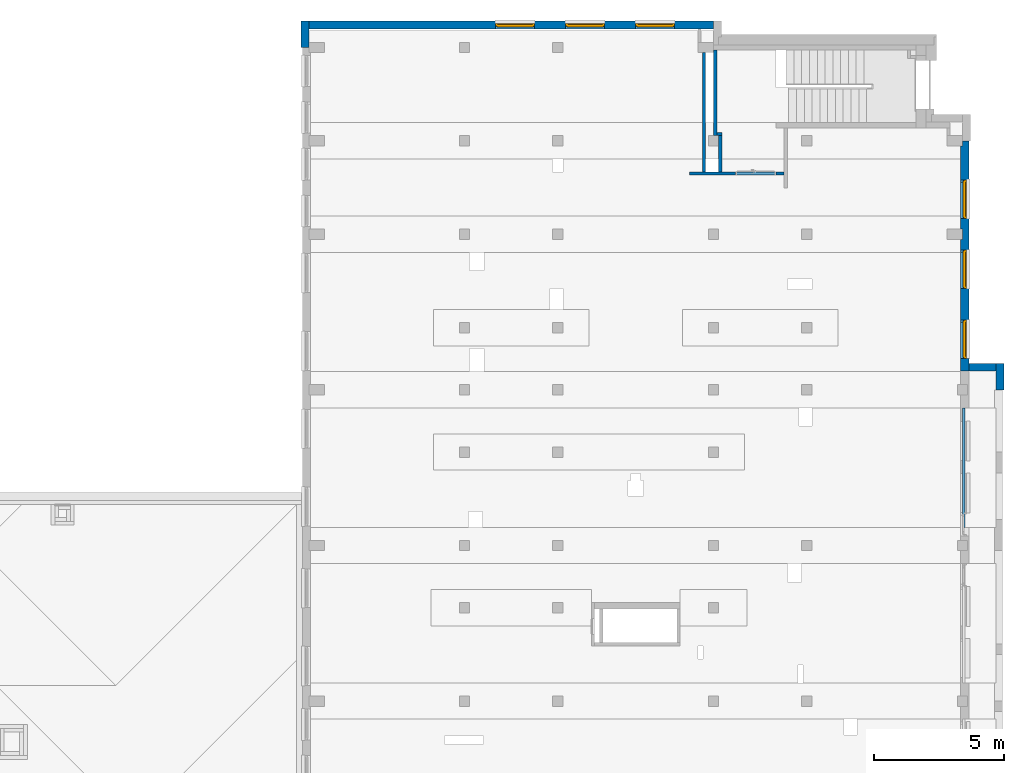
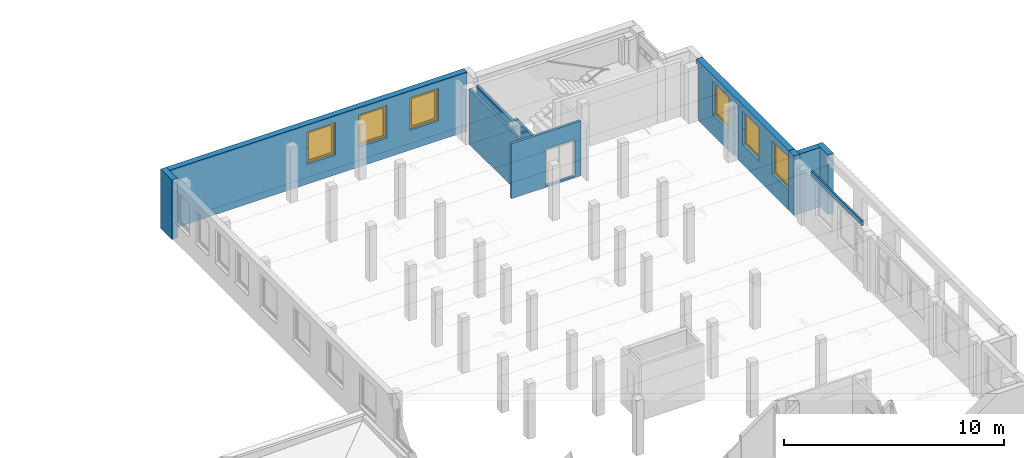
# One storey, part 11 of 27: 12 walls, 6 windows, 7 openings.
"""IFC4 building model written with IfcOpenShell, lengths in metres."""

from ifc_helpers import new_model, entity, si_unit, converted_unit, derived_unit, frame, frame_2d, origin, origin_with_axes, place, context, subcontext, project, spatial, polyline, rectangle, outline, extrude, clip, bounded_halfspace, closed_shell, open_shell, surface_model, source, transform, mapped, material, layer, layer_set, layer_usage, element, fill, save


model = new_model("IFC4")

# Units and contexts
model_context = context("Model", 3, precision=1e-05, world=origin())
body_context = subcontext(model_context, "Body", "Model", "MODEL_VIEW")
ifc_project = project(units=[si_unit("LENGTHUNIT", "METRE"), si_unit("AREAUNIT", "SQUARE_METRE"), si_unit("VOLUMEUNIT", "CUBIC_METRE"), si_unit("MASSUNIT", "GRAM", prefix="KILO"), converted_unit("PLANEANGLEUNIT", "DEGREE", entity("IfcPlaneAngleMeasure", 0.0174532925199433), si_unit("PLANEANGLEUNIT", "RADIAN"), dimensions=[0, 0, 0, 0, 0, 0, 0]), derived_unit("THERMALTRANSMITTANCEUNIT", [(si_unit("POWERUNIT", "WATT"), 1), (si_unit("THERMODYNAMICTEMPERATUREUNIT", "KELVIN"), -1), (si_unit("LENGTHUNIT", "METRE"), -2)]), derived_unit("VOLUMETRICFLOWRATEUNIT", [(si_unit("LENGTHUNIT", "METRE"), 3), (converted_unit("TIMEUNIT", "hour", entity("IfcTimeMeasure", 3600.0), si_unit("TIMEUNIT", "SECOND"), dimensions=[0, 0, 1, 0, 0, 0, 0]), -1), (si_unit("LENGTHUNIT", "METRE"), -1)])], contexts=[model_context])

# Site, building, storey
site_placement = place(None, origin())
site = spatial("IfcSite", under=ifc_project, at=site_placement, Name="3. ASŘ", CompositionType="ELEMENT")
building_placement = place(site_placement, origin())
building = spatial("IfcBuilding", under=site, at=building_placement, Name="Pavilon C", CompositionType="ELEMENT")
storey_placement = place(building_placement, frame((0.0, 0.0, 7.2)))
storey = spatial("IfcBuildingStorey", under=building, at=storey_placement, Name="Půdorys 3.NP", CompositionType="ELEMENT", Elevation=7.2)

# Wall, openings, windows
ifc_material_1 = material(Name="ZELEZOBETONOVÁ KCE")
ifc_layer_1 = layer(ifc_material_1, 0.32)
ifc_layer_set_1 = layer_set([ifc_layer_1])
ifc_layer_usage_1 = layer_usage(ifc_layer_set_1, "AXIS2", "POSITIVE", 0.0)
wall_1_placement = place(storey_placement, frame((50.2, 20.4, -0.1), z_axis=(0.0, 0.0, 1.0), x_axis=(0.0, 1.0, 0.0)))
wall_1 = element("IfcWall", 1, at=wall_1_placement, inside=storey, material=ifc_layer_usage_1, Name="ZELEZOBETONOVÁ KCE", context=body_context, shape_type="Clipping", body=[
    clip(clip(extrude(rectangle(XDim=8.4, YDim=0.32, at=frame_2d((4.2, 0.16), x_axis=(1.0, 0.0))), origin_with_axes(), (0.0, 0.0, 1.0), 3.3), bounded_halfspace(frame((8.3, 0.285, 3.05), z_axis=(0.0, 0.0, 1.0), x_axis=(-1.0, 0.0, 0.0)), True, origin_with_axes(), polyline([(8.4, 0.32), (8.2, 0.32), (8.2, 0.25), (8.4, 0.25), (8.4, 0.32)]))), bounded_halfspace(frame((4.80000000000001, 0.285, 3.05), z_axis=(0.0, 0.0, 1.0), x_axis=(0.0, 1.0, 0.0)), True, origin_with_axes(), polyline([(5.00000000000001, 0.25), (5.00000000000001, 0.32), (4.60000000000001, 0.32), (4.60000000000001, 0.25), (5.00000000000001, 0.25)]))),
])
opening_1_placement = place(wall_1_placement, frame((5.39999999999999, 0.0, 1.1), z_axis=(0.0, 1.0, 0.0), x_axis=(0.0, 0.0, 1.0)))
opening_1 = element("IfcOpeningElement", 2, at=opening_1_placement, cuts=wall_1, Name="Okenní otvor", ObjectType="Opening", context=body_context, shape_type="SweptSolid", body=[
    extrude(outline(polyline([(0.0, 1.5), (1.85, 1.5), (1.85, 0.0), (0.0, 0.0), (0.0, 1.5)])), origin_with_axes(), (0.0, 0.0, 1.0), 0.32),
])
opening_2_placement = place(wall_1_placement, frame((2.69999999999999, 0.0, 1.1), z_axis=(0.0, 1.0, 0.0), x_axis=(0.0, 0.0, 1.0)))
opening_2 = element("IfcOpeningElement", 3, at=opening_2_placement, cuts=wall_1, Name="Okenní otvor", ObjectType="Opening", context=body_context, shape_type="SweptSolid", body=[
    extrude(outline(polyline([(0.0, 1.5), (1.85, 1.5), (1.85, 0.0), (0.0, 0.0), (0.0, 1.5)])), origin_with_axes(), (0.0, 0.0, 1.0), 0.32),
])
opening_3_placement = place(wall_1_placement, frame((0.0, 0.0, 1.1), z_axis=(0.0, 1.0, 0.0), x_axis=(0.0, 0.0, 1.0)))
opening_3 = element("IfcOpeningElement", 4, at=opening_3_placement, cuts=wall_1, Name="Okenní otvor", ObjectType="Opening", context=body_context, shape_type="SweptSolid", body=[
    extrude(outline(polyline([(0.0, 1.5), (1.85, 1.5), (1.85, 0.0), (0.0, 0.0), (0.0, 1.5)])), origin_with_axes(), (0.0, 0.0, 1.0), 0.32),
])
shared_shape_1 = source(origin_with_axes(), body_context, "Body", "SurfaceModel", [
    surface_model("IfcShellBasedSurfaceModel", [(0.0, 0.182, 1.85), (0.0, 0.182, -5.63337527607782e-18), (0.08, 0.182, -5.63337527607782e-18), (0.08, 0.182, 1.85), (0.0, 0.0899999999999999, 5.63337527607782e-18), (0.0, 0.0900000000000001, 1.85), (0.08, 0.0900000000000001, 1.85), (0.08, 0.0899999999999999, 5.63337527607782e-18)], [closed_shell([[[0, 1, 2, 3]], [[4, 5, 6, 7]], [[1, 0, 5, 4]], [[2, 1, 4, 7]], [[3, 2, 7, 6]], [[0, 3, 6, 5]]], orient=[[False], [False], [False], [False], [False], [False]])]),
    surface_model("IfcShellBasedSurfaceModel", [(1.42, 0.182, 1.85), (1.42, 0.182, -5.63337527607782e-18), (1.5, 0.182, -5.63337527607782e-18), (1.5, 0.182, 1.85), (1.42, 0.0899999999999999, 5.63337527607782e-18), (1.42, 0.0900000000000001, 1.85), (1.5, 0.0900000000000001, 1.85), (1.5, 0.0899999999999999, 5.63337527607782e-18)], [closed_shell([[[0, 1, 2, 3]], [[4, 5, 6, 7]], [[1, 0, 5, 4]], [[2, 1, 4, 7]], [[3, 2, 7, 6]], [[0, 3, 6, 5]]], orient=[[False], [False], [False], [False], [False], [False]])]),
    surface_model("IfcShellBasedSurfaceModel", [(0.08, 0.182, 0.08), (0.08, 0.182, -5.63337527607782e-18), (1.42, 0.182, -5.63337527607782e-18), (1.42, 0.182, 0.08), (0.08, 0.0899999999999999, 5.63337527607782e-18), (0.08, 0.0899999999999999, 0.08), (1.42, 0.0899999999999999, 0.08), (1.42, 0.0899999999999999, 5.63337527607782e-18)], [closed_shell([[[0, 1, 2, 3]], [[4, 5, 6, 7]], [[1, 0, 5, 4]], [[2, 1, 4, 7]], [[3, 2, 7, 6]], [[0, 3, 6, 5]]], orient=[[False], [False], [False], [False], [False], [False]])]),
    surface_model("IfcShellBasedSurfaceModel", [(0.08, 0.182, 1.85), (0.08, 0.182, 1.77), (1.42, 0.182, 1.77), (1.42, 0.182, 1.85), (0.08, 0.0900000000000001, 1.77), (0.08, 0.0900000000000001, 1.85), (1.42, 0.0900000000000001, 1.85), (1.42, 0.0900000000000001, 1.77)], [closed_shell([[[0, 1, 2, 3]], [[4, 5, 6, 7]], [[1, 0, 5, 4]], [[2, 1, 4, 7]], [[3, 2, 7, 6]], [[0, 3, 6, 5]]], orient=[[False], [False], [False], [False], [False], [False]])]),
    surface_model("IfcShellBasedSurfaceModel", [(0.05, 0.145, 1.8), (0.05, 0.145, 0.05), (0.13, 0.145, 0.05), (0.13, 0.145, 1.8), (0.05, 0.0599999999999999, 0.05), (0.05, 0.0600000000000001, 1.8), (0.13, 0.0600000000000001, 1.8), (0.13, 0.0599999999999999, 0.05)], [closed_shell([[[0, 1, 2, 3]], [[4, 5, 6, 7]], [[1, 0, 5, 4]], [[2, 1, 4, 7]], [[3, 2, 7, 6]], [[0, 3, 6, 5]]], orient=[[False], [False], [False], [False], [False], [False]])]),
    surface_model("IfcShellBasedSurfaceModel", [(1.37, 0.145, 1.8), (1.37, 0.145, 0.05), (1.45, 0.145, 0.05), (1.45, 0.145, 1.8), (1.37, 0.0599999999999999, 0.05), (1.37, 0.0600000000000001, 1.8), (1.45, 0.0600000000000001, 1.8), (1.45, 0.0599999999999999, 0.05)], [closed_shell([[[0, 1, 2, 3]], [[4, 5, 6, 7]], [[1, 0, 5, 4]], [[2, 1, 4, 7]], [[3, 2, 7, 6]], [[0, 3, 6, 5]]], orient=[[False], [False], [False], [False], [False], [False]])]),
    surface_model("IfcShellBasedSurfaceModel", [(0.13, 0.145, 0.13), (0.13, 0.145, 0.05), (1.37, 0.145, 0.05), (1.37, 0.145, 0.13), (0.13, 0.0599999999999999, 0.05), (0.13, 0.0599999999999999, 0.13), (1.37, 0.0599999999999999, 0.13), (1.37, 0.0599999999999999, 0.05)], [closed_shell([[[0, 1, 2, 3]], [[4, 5, 6, 7]], [[1, 0, 5, 4]], [[2, 1, 4, 7]], [[3, 2, 7, 6]], [[0, 3, 6, 5]]], orient=[[False], [False], [False], [False], [False], [False]])]),
    surface_model("IfcShellBasedSurfaceModel", [(0.13, 0.145, 1.8), (0.13, 0.145, 1.72), (1.37, 0.145, 1.72), (1.37, 0.145, 1.8), (0.13, 0.0600000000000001, 1.72), (0.13, 0.0600000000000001, 1.8), (1.37, 0.0600000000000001, 1.8), (1.37, 0.0600000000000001, 1.72)], [closed_shell([[[0, 1, 2, 3]], [[4, 5, 6, 7]], [[1, 0, 5, 4]], [[2, 1, 4, 7]], [[3, 2, 7, 6]], [[0, 3, 6, 5]]], orient=[[False], [False], [False], [False], [False], [False]])]),
    surface_model("IfcShellBasedSurfaceModel", [(0.0775, 0.06, 0.945), (0.0775, 0.06, 0.905), (0.1025, 0.06, 0.905), (0.1025, 0.06, 0.945), (0.0775, 0.05, 0.905), (0.0775, 0.05, 0.945), (0.1025, 0.05, 0.945), (0.1025, 0.05, 0.905)], [closed_shell([[[0, 1, 2, 3]], [[4, 5, 6, 7]], [[1, 0, 5, 4]], [[2, 1, 4, 7]], [[3, 2, 7, 6]], [[0, 3, 6, 5]]], orient=[[False], [False], [False], [False], [False], [False]])]),
    surface_model("IfcShellBasedSurfaceModel", [(0.1, 0.05, 0.925), (0.0986602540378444, 0.05, 0.93), (0.095, 0.05, 0.933660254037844), (0.09, 0.05, 0.935), (0.085, 0.05, 0.933660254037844), (0.0813397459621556, 0.05, 0.93), (0.08, 0.05, 0.925), (0.0813397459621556, 0.05, 0.92), (0.085, 0.05, 0.916339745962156), (0.09, 0.05, 0.915), (0.095, 0.05, 0.916339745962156), (0.0986602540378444, 0.05, 0.92), (0.1, 0.01, 0.925), (0.0986602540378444, 0.00500000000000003, 0.93), (0.095, 0.00133974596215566, 0.933660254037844), (0.09, 2.8421709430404e-17, 0.935), (0.085, 0.00133974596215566, 0.933660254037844), (0.0813397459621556, 0.00500000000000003, 0.93), (0.08, 0.01, 0.925), (0.0813397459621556, 0.015, 0.92), (0.085, 0.0186602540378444, 0.916339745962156), (0.09, 0.02, 0.915), (0.095, 0.0186602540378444, 0.916339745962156), (0.0986602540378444, 0.015, 0.92), (0.1, 0.01, 0.81), (0.0986602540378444, 0.005, 0.81), (0.095, 0.00133974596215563, 0.81), (0.09, 0.0, 0.81), (0.085, 0.00133974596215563, 0.81), (0.0813397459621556, 0.005, 0.81), (0.08, 0.01, 0.81), (0.0813397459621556, 0.015, 0.81), (0.085, 0.0186602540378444, 0.81), (0.09, 0.02, 0.81), (0.095, 0.0186602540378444, 0.81), (0.0986602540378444, 0.015, 0.81)], [open_shell([[[0, 1, 2, 3, 4, 5, 6, 7, 8, 9, 10, 11]], [[0, 12, 13, 1]], [[1, 13, 14, 2]], [[2, 14, 15, 3]], [[3, 15, 16, 4]], [[4, 16, 17, 5]], [[5, 17, 18, 6]], [[6, 18, 19, 7]], [[7, 19, 20, 8]], [[8, 20, 21, 9]], [[9, 21, 22, 10]], [[10, 22, 23, 11]], [[11, 23, 12, 0]], [[12, 24, 25, 13]], [[13, 25, 26, 14]], [[14, 26, 27, 15]], [[15, 27, 28, 16]], [[16, 28, 29, 17]], [[17, 29, 30, 18]], [[18, 30, 31, 19]], [[19, 31, 32, 20]], [[20, 32, 33, 21]], [[21, 33, 34, 22]], [[22, 34, 35, 23]], [[23, 35, 24, 12]]], orient=[[False], [False], [False], [False], [False], [False], [False], [False], [False], [False], [False], [False], [False], [False], [False], [False], [False], [False], [False], [False], [False], [False], [False], [False], [False]])]),
    surface_model("IfcShellBasedSurfaceModel", [(0.13, 0.1025, 0.13), (1.37, 0.1025, 0.13), (1.37, 0.1025, 1.72), (0.13, 0.1025, 1.72)], [open_shell([[[0, 1, 2, 3]]], orient=[[False]])]),
])
window_1_placement = place(opening_1_placement, frame((0.0, 1.49999999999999, 0.282000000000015), z_axis=(1.0, 0.0, 0.0), x_axis=(0.0, -1.0, 2.44929359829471e-16)))
window_1 = element("IfcWindow", 5, at=window_1_placement, inside=storey, Name="O06", OverallHeight=1.85, OverallWidth=1.5, PartitioningType="USERDEFINED", PredefinedType="WINDOW", context=body_context, shape_type="MappedRepresentation", body=[
    mapped(shared_shape_1, transform((0.0, 0.0, 0.0), x_axis=(1.0, 0.0, 0.0), y_axis=(0.0, 1.0, 0.0), z_axis=(0.0, 0.0, 1.0), scale=1.0)),
])
fill(opening_1, window_1)
window_2_placement = place(opening_2_placement, frame((0.0, 1.49999999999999, 0.282000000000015), z_axis=(1.0, 0.0, 0.0), x_axis=(0.0, -1.0, 2.44929359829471e-16)))
window_2 = element("IfcWindow", 6, at=window_2_placement, inside=storey, Name="O06", OverallHeight=1.85, OverallWidth=1.5, PartitioningType="USERDEFINED", PredefinedType="WINDOW", context=body_context, shape_type="MappedRepresentation", body=[
    mapped(shared_shape_1, transform((0.0, 0.0, 0.0), x_axis=(1.0, 0.0, 0.0), y_axis=(0.0, 1.0, 0.0), z_axis=(0.0, 0.0, 1.0), scale=1.0)),
])
fill(opening_2, window_2)
window_3_placement = place(opening_3_placement, frame((0.0, 1.49999999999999, 0.282000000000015), z_axis=(1.0, 0.0, 0.0), x_axis=(0.0, -1.0, 2.44929359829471e-16)))
window_3 = element("IfcWindow", 7, at=window_3_placement, inside=storey, Name="O06", OverallHeight=1.85, OverallWidth=1.5, PartitioningType="USERDEFINED", PredefinedType="WINDOW", context=body_context, shape_type="MappedRepresentation", body=[
    mapped(shared_shape_1, transform((0.0, 0.0, 0.0), x_axis=(1.0, 0.0, 0.0), y_axis=(0.0, 1.0, 0.0), z_axis=(0.0, 0.0, 1.0), scale=1.0)),
])
fill(opening_3, window_3)

# Wall
ifc_material_2 = material(Name="ZELEZOBETONOVÁ KCE")
ifc_layer_2 = layer(ifc_material_2, 0.3)
ifc_layer_set_2 = layer_set([ifc_layer_2])
ifc_layer_usage_2 = layer_usage(ifc_layer_set_2, "AXIS2", "POSITIVE", 0.0)
wall_2_placement = place(storey_placement, frame((24.75, 32.4, -0.1), z_axis=(0.0, 0.0, 1.0), x_axis=(0.0, 1.0, 0.0)))
element("IfcWall", 8, at=wall_2_placement, inside=storey, material=ifc_layer_usage_2, Name="ZELEZOBETONOVÁ KCE", context=body_context, shape_type="SweptSolid", body=[
    extrude(rectangle(XDim=1.02, YDim=0.3, at=frame_2d((0.51, 0.15), x_axis=(1.0, 0.0))), origin_with_axes(), (0.0, 0.0, 1.0), 3.3),
])

# Wall, openings, windows
ifc_material_3 = material(Name="ZELEZOBETONOVÁ KCE")
ifc_layer_3 = layer(ifc_material_3, 0.3)
ifc_layer_set_3 = layer_set([ifc_layer_3])
ifc_layer_usage_3 = layer_usage(ifc_layer_set_3, "AXIS2", "POSITIVE", 0.0)
wall_3_placement = place(storey_placement, frame((40.35, 33.42, -0.1), z_axis=(0.0, 0.0, 1.0), x_axis=(-1.0, 0.0, 0.0)))
wall_3 = element("IfcWall", 9, at=wall_3_placement, inside=storey, material=ifc_layer_usage_3, Name="ZELEZOBETONOVÁ KCE", context=body_context, shape_type="SweptSolid", body=[
    extrude(rectangle(XDim=15.6, YDim=0.3, at=frame_2d((7.8, 0.15), x_axis=(1.0, 0.0))), origin_with_axes(), (0.0, 0.0, 1.0), 3.3),
])
opening_4_placement = place(wall_3_placement, frame((1.5, 0.0, 1.1), z_axis=(0.0, 1.0, 0.0), x_axis=(0.0, 0.0, 1.0)))
opening_4 = element("IfcOpeningElement", 10, at=opening_4_placement, cuts=wall_3, Name="Okenní otvor", ObjectType="Opening", context=body_context, shape_type="SweptSolid", body=[
    extrude(outline(polyline([(0.0, 1.5), (1.8, 1.5), (1.8, 0.0), (0.0, 0.0), (0.0, 1.5)])), origin_with_axes(), (0.0, 0.0, 1.0), 0.3),
])
opening_5_placement = place(wall_3_placement, frame((4.2, 0.0, 1.1), z_axis=(0.0, 1.0, 0.0), x_axis=(0.0, 0.0, 1.0)))
opening_5 = element("IfcOpeningElement", 11, at=opening_5_placement, cuts=wall_3, Name="Okenní otvor", ObjectType="Opening", context=body_context, shape_type="SweptSolid", body=[
    extrude(outline(polyline([(0.0, 1.5), (1.8, 1.5), (1.8, 0.0), (0.0, 0.0), (0.0, 1.5)])), origin_with_axes(), (0.0, 0.0, 1.0), 0.3),
])
opening_6_placement = place(wall_3_placement, frame((6.9, 0.0, 1.1), z_axis=(0.0, 1.0, 0.0), x_axis=(0.0, 0.0, 1.0)))
opening_6 = element("IfcOpeningElement", 12, at=opening_6_placement, cuts=wall_3, Name="Okenní otvor", ObjectType="Opening", context=body_context, shape_type="SweptSolid", body=[
    extrude(outline(polyline([(0.0, 1.5), (1.8, 1.5), (1.8, 0.0), (0.0, 0.0), (0.0, 1.5)])), origin_with_axes(), (0.0, 0.0, 1.0), 0.3),
])
shared_shape_2 = source(origin_with_axes(), body_context, "Body", "SurfaceModel", [
    surface_model("IfcShellBasedSurfaceModel", [(0.0, 0.182, 1.8), (0.0, 0.182, -5.63337527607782e-18), (0.08, 0.182, -5.63337527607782e-18), (0.08, 0.182, 1.8), (0.0, 0.0899999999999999, 5.63337527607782e-18), (0.0, 0.0900000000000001, 1.8), (0.08, 0.0900000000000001, 1.8), (0.08, 0.0899999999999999, 5.63337527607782e-18)], [closed_shell([[[0, 1, 2, 3]], [[4, 5, 6, 7]], [[1, 0, 5, 4]], [[2, 1, 4, 7]], [[3, 2, 7, 6]], [[0, 3, 6, 5]]], orient=[[False], [False], [False], [False], [False], [False]])]),
    surface_model("IfcShellBasedSurfaceModel", [(1.42, 0.182, 1.8), (1.42, 0.182, -5.63337527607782e-18), (1.5, 0.182, -5.63337527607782e-18), (1.5, 0.182, 1.8), (1.42, 0.0899999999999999, 5.63337527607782e-18), (1.42, 0.0900000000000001, 1.8), (1.5, 0.0900000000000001, 1.8), (1.5, 0.0899999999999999, 5.63337527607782e-18)], [closed_shell([[[0, 1, 2, 3]], [[4, 5, 6, 7]], [[1, 0, 5, 4]], [[2, 1, 4, 7]], [[3, 2, 7, 6]], [[0, 3, 6, 5]]], orient=[[False], [False], [False], [False], [False], [False]])]),
    surface_model("IfcShellBasedSurfaceModel", [(0.08, 0.182, 0.08), (0.08, 0.182, -5.63337527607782e-18), (1.42, 0.182, -5.63337527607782e-18), (1.42, 0.182, 0.08), (0.08, 0.0899999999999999, 5.63337527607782e-18), (0.08, 0.0899999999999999, 0.08), (1.42, 0.0899999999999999, 0.08), (1.42, 0.0899999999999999, 5.63337527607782e-18)], [closed_shell([[[0, 1, 2, 3]], [[4, 5, 6, 7]], [[1, 0, 5, 4]], [[2, 1, 4, 7]], [[3, 2, 7, 6]], [[0, 3, 6, 5]]], orient=[[False], [False], [False], [False], [False], [False]])]),
    surface_model("IfcShellBasedSurfaceModel", [(0.08, 0.182, 1.8), (0.08, 0.182, 1.72), (1.42, 0.182, 1.72), (1.42, 0.182, 1.8), (0.08, 0.0900000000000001, 1.72), (0.08, 0.0900000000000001, 1.8), (1.42, 0.0900000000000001, 1.8), (1.42, 0.0900000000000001, 1.72)], [closed_shell([[[0, 1, 2, 3]], [[4, 5, 6, 7]], [[1, 0, 5, 4]], [[2, 1, 4, 7]], [[3, 2, 7, 6]], [[0, 3, 6, 5]]], orient=[[False], [False], [False], [False], [False], [False]])]),
    surface_model("IfcShellBasedSurfaceModel", [(0.05, 0.145, 1.75), (0.05, 0.145, 0.05), (0.13, 0.145, 0.05), (0.13, 0.145, 1.75), (0.05, 0.0599999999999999, 0.05), (0.05, 0.0600000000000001, 1.75), (0.13, 0.0600000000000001, 1.75), (0.13, 0.0599999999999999, 0.05)], [closed_shell([[[0, 1, 2, 3]], [[4, 5, 6, 7]], [[1, 0, 5, 4]], [[2, 1, 4, 7]], [[3, 2, 7, 6]], [[0, 3, 6, 5]]], orient=[[False], [False], [False], [False], [False], [False]])]),
    surface_model("IfcShellBasedSurfaceModel", [(1.37, 0.145, 1.75), (1.37, 0.145, 0.05), (1.45, 0.145, 0.05), (1.45, 0.145, 1.75), (1.37, 0.0599999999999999, 0.05), (1.37, 0.0600000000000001, 1.75), (1.45, 0.0600000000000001, 1.75), (1.45, 0.0599999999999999, 0.05)], [closed_shell([[[0, 1, 2, 3]], [[4, 5, 6, 7]], [[1, 0, 5, 4]], [[2, 1, 4, 7]], [[3, 2, 7, 6]], [[0, 3, 6, 5]]], orient=[[False], [False], [False], [False], [False], [False]])]),
    surface_model("IfcShellBasedSurfaceModel", [(0.13, 0.145, 0.13), (0.13, 0.145, 0.05), (1.37, 0.145, 0.05), (1.37, 0.145, 0.13), (0.13, 0.0599999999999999, 0.05), (0.13, 0.0599999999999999, 0.13), (1.37, 0.0599999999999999, 0.13), (1.37, 0.0599999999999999, 0.05)], [closed_shell([[[0, 1, 2, 3]], [[4, 5, 6, 7]], [[1, 0, 5, 4]], [[2, 1, 4, 7]], [[3, 2, 7, 6]], [[0, 3, 6, 5]]], orient=[[False], [False], [False], [False], [False], [False]])]),
    surface_model("IfcShellBasedSurfaceModel", [(0.13, 0.145, 1.75), (0.13, 0.145, 1.67), (1.37, 0.145, 1.67), (1.37, 0.145, 1.75), (0.13, 0.0600000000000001, 1.67), (0.13, 0.0600000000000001, 1.75), (1.37, 0.0600000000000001, 1.75), (1.37, 0.0600000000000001, 1.67)], [closed_shell([[[0, 1, 2, 3]], [[4, 5, 6, 7]], [[1, 0, 5, 4]], [[2, 1, 4, 7]], [[3, 2, 7, 6]], [[0, 3, 6, 5]]], orient=[[False], [False], [False], [False], [False], [False]])]),
    surface_model("IfcShellBasedSurfaceModel", [(0.0775, 0.06, 0.92), (0.0775, 0.06, 0.88), (0.1025, 0.06, 0.88), (0.1025, 0.06, 0.92), (0.0775, 0.05, 0.88), (0.0775, 0.05, 0.92), (0.1025, 0.05, 0.92), (0.1025, 0.05, 0.88)], [closed_shell([[[0, 1, 2, 3]], [[4, 5, 6, 7]], [[1, 0, 5, 4]], [[2, 1, 4, 7]], [[3, 2, 7, 6]], [[0, 3, 6, 5]]], orient=[[False], [False], [False], [False], [False], [False]])]),
    surface_model("IfcShellBasedSurfaceModel", [(0.1, 0.05, 0.9), (0.0986602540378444, 0.05, 0.905), (0.095, 0.05, 0.908660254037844), (0.09, 0.05, 0.91), (0.085, 0.05, 0.908660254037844), (0.0813397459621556, 0.05, 0.905), (0.08, 0.05, 0.9), (0.0813397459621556, 0.05, 0.895), (0.085, 0.05, 0.891339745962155), (0.09, 0.05, 0.89), (0.095, 0.05, 0.891339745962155), (0.0986602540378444, 0.05, 0.895), (0.1, 0.01, 0.9), (0.0986602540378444, 0.00500000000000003, 0.905), (0.095, 0.00133974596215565, 0.908660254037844), (0.09, 2.8421709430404e-17, 0.91), (0.085, 0.00133974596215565, 0.908660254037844), (0.0813397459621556, 0.00500000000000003, 0.905), (0.08, 0.01, 0.9), (0.0813397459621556, 0.015, 0.895), (0.085, 0.0186602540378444, 0.891339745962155), (0.09, 0.02, 0.89), (0.095, 0.0186602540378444, 0.891339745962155), (0.0986602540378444, 0.015, 0.895), (0.1, 0.01, 0.785), (0.0986602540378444, 0.005, 0.785), (0.095, 0.00133974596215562, 0.785), (0.09, 0.0, 0.785), (0.085, 0.00133974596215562, 0.785), (0.0813397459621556, 0.005, 0.785), (0.08, 0.01, 0.785), (0.0813397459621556, 0.015, 0.785), (0.085, 0.0186602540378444, 0.785), (0.09, 0.02, 0.785), (0.095, 0.0186602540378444, 0.785), (0.0986602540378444, 0.015, 0.785)], [open_shell([[[0, 1, 2, 3, 4, 5, 6, 7, 8, 9, 10, 11]], [[0, 12, 13, 1]], [[1, 13, 14, 2]], [[2, 14, 15, 3]], [[3, 15, 16, 4]], [[4, 16, 17, 5]], [[5, 17, 18, 6]], [[6, 18, 19, 7]], [[7, 19, 20, 8]], [[8, 20, 21, 9]], [[9, 21, 22, 10]], [[10, 22, 23, 11]], [[11, 23, 12, 0]], [[12, 24, 25, 13]], [[13, 25, 26, 14]], [[14, 26, 27, 15]], [[15, 27, 28, 16]], [[16, 28, 29, 17]], [[17, 29, 30, 18]], [[18, 30, 31, 19]], [[19, 31, 32, 20]], [[20, 32, 33, 21]], [[21, 33, 34, 22]], [[22, 34, 35, 23]], [[23, 35, 24, 12]]], orient=[[False], [False], [False], [False], [False], [False], [False], [False], [False], [False], [False], [False], [False], [False], [False], [False], [False], [False], [False], [False], [False], [False], [False], [False], [False]])]),
    surface_model("IfcShellBasedSurfaceModel", [(0.13, 0.1025, 0.13), (1.37, 0.1025, 0.13), (1.37, 0.1025, 1.67), (0.13, 0.1025, 1.67)], [open_shell([[[0, 1, 2, 3]]], orient=[[False]])]),
])
window_4_placement = place(opening_4_placement, frame((0.0, 1.5, 0.282), z_axis=(1.0, 0.0, 0.0), x_axis=(0.0, -1.0, 2.44929359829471e-16)))
window_4 = element("IfcWindow", 13, at=window_4_placement, inside=storey, Name="O06", OverallHeight=1.8, OverallWidth=1.5, PartitioningType="USERDEFINED", PredefinedType="WINDOW", context=body_context, shape_type="MappedRepresentation", body=[
    mapped(shared_shape_2, transform((0.0, 0.0, 0.0), x_axis=(1.0, 0.0, 0.0), y_axis=(0.0, 1.0, 0.0), z_axis=(0.0, 0.0, 1.0), scale=1.0)),
])
fill(opening_4, window_4)
window_5_placement = place(opening_5_placement, frame((0.0, 1.5, 0.282), z_axis=(1.0, 0.0, 0.0), x_axis=(0.0, -1.0, 2.44929359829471e-16)))
window_5 = element("IfcWindow", 14, at=window_5_placement, inside=storey, Name="O06", OverallHeight=1.8, OverallWidth=1.5, PartitioningType="USERDEFINED", PredefinedType="WINDOW", context=body_context, shape_type="MappedRepresentation", body=[
    mapped(shared_shape_2, transform((0.0, 0.0, 0.0), x_axis=(1.0, 0.0, 0.0), y_axis=(0.0, 1.0, 0.0), z_axis=(0.0, 0.0, 1.0), scale=1.0)),
])
fill(opening_5, window_5)
window_6_placement = place(opening_6_placement, frame((0.0, 1.5, 0.282), z_axis=(1.0, 0.0, 0.0), x_axis=(0.0, -0.999999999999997, 2.4492935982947e-16)))
window_6 = element("IfcWindow", 15, at=window_6_placement, inside=storey, Name="O06", OverallHeight=1.8, OverallWidth=1.5, PartitioningType="USERDEFINED", PredefinedType="WINDOW", context=body_context, shape_type="MappedRepresentation", body=[
    mapped(shared_shape_2, transform((0.0, 0.0, 0.0), x_axis=(1.0, 0.0, 0.0), y_axis=(0.0, 1.0, 0.0), z_axis=(0.0, 0.0, 1.0), scale=0.999999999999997)),
])
fill(opening_6, window_6)

# Walls
ifc_material_4 = material(Name="PLYNOSILIKÁT")
ifc_layer_4 = layer(ifc_material_4, 0.32)
ifc_layer_set_4 = layer_set([ifc_layer_4])
ifc_layer_usage_4 = layer_usage(ifc_layer_set_4, "AXIS2", "POSITIVE", 0.0)
wall_4_placement = place(storey_placement, frame((50.2, 19.92, -0.1), z_axis=(0.0, 0.0, 1.0), x_axis=(0.0, 1.0, 0.0)))
element("IfcWall", 16, at=wall_4_placement, inside=storey, material=ifc_layer_usage_4, Name="PLYNOSILIKÁT", context=body_context, shape_type="SweptSolid", body=[
    extrude(rectangle(XDim=0.480000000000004, YDim=0.32, at=frame_2d((0.240000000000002, 0.16), x_axis=(1.0, 0.0))), origin_with_axes(), (0.0, 0.0, 1.0), 3.3),
])
ifc_material_5 = material(Name="ZDIVO Z CDm")
ifc_layer_5 = layer(ifc_material_5, 0.125)
ifc_layer_set_5 = layer_set([ifc_layer_5])
ifc_layer_usage_5 = layer_usage(ifc_layer_set_5, "AXIS2", "POSITIVE", 0.0)
wall_5_placement = place(storey_placement, frame((40.05, 27.6, -0.1), z_axis=(0.0, 0.0, 1.0), x_axis=(0.0, 1.0, 0.0)))
element("IfcWall", 17, at=wall_5_placement, inside=storey, material=ifc_layer_usage_5, Name="ZDIVO Z CDm", context=body_context, shape_type="SweptSolid", body=[
    extrude(rectangle(XDim=4.6, YDim=0.125, at=frame_2d((2.3, 0.0625), x_axis=(1.0, 0.0))), origin_with_axes(), (0.0, 0.0, 1.0), 3.05),
])
ifc_material_6 = material(Name="ZDIVO Z CDm")
ifc_layer_6 = layer(ifc_material_6, 0.125)
ifc_layer_set_6 = layer_set([ifc_layer_6])
ifc_layer_usage_6 = layer_usage(ifc_layer_set_6, "AXIS2", "POSITIVE", 0.0)
wall_6_placement = place(storey_placement, frame((40.475, 29.0, -0.1)))
element("IfcWall", 18, at=wall_6_placement, inside=storey, material=ifc_layer_usage_6, Name="ZDIVO Z CDm", context=body_context, shape_type="SweptSolid", body=[
    extrude(rectangle(XDim=0.2, YDim=0.125, at=frame_2d((0.1, 0.0625), x_axis=(1.0, 0.0))), origin_with_axes(), (0.0, 0.0, 1.0), 3.05),
])
ifc_material_7 = material(Name="ZDIVO Z CDm")
ifc_layer_7 = layer(ifc_material_7, 0.125)
ifc_layer_set_7 = layer_set([ifc_layer_7])
ifc_layer_usage_7 = layer_usage(ifc_layer_set_7, "AXIS2", "POSITIVE", 0.0)
wall_7_placement = place(storey_placement, frame((40.55, 29.0, -0.1), z_axis=(0.0, 0.0, 1.0), x_axis=(0.0, -1.0, 0.0)))
element("IfcWall", 19, at=wall_7_placement, inside=storey, material=ifc_layer_usage_7, Name="ZDIVO Z CDm", context=body_context, shape_type="SweptSolid", body=[
    extrude(rectangle(XDim=1.40000000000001, YDim=0.125, at=frame_2d((0.700000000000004, 0.0625), x_axis=(1.0, 0.0))), origin_with_axes(), (0.0, 0.0, 1.0), 3.05),
])
ifc_material_8 = material(Name="ZDIVO Z CDm")
ifc_layer_8 = layer(ifc_material_8, 0.125)
ifc_layer_set_8 = layer_set([ifc_layer_8])
ifc_layer_usage_8 = layer_usage(ifc_layer_set_8, "AXIS2", "POSITIVE", 0.0)
wall_8_placement = place(storey_placement, frame((40.35, 32.3, -0.1), z_axis=(0.0, 0.0, 1.0), x_axis=(0.0, -1.0, 0.0)))
element("IfcWall", 20, at=wall_8_placement, inside=storey, material=ifc_layer_usage_8, Name="ZDIVO Z CDm", context=body_context, shape_type="SweptSolid", body=[
    extrude(rectangle(XDim=3.29999999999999, YDim=0.125, at=frame_2d((1.65, 0.0625), x_axis=(1.0, 0.0))), origin_with_axes(), (0.0, 0.0, 1.0), 3.05),
])

# Wall, opening
ifc_material_9 = material(Name="ZDIVO Z CDm")
ifc_layer_9 = layer(ifc_material_9, 0.125)
ifc_layer_set_9 = layer_set([ifc_layer_9])
ifc_layer_usage_9 = layer_usage(ifc_layer_set_9, "AXIS2", "POSITIVE", 0.0)
wall_9_placement = place(storey_placement, frame((43.075, 27.6, -0.1), z_axis=(0.0, 0.0, 1.0), x_axis=(-1.0, 0.0, 0.0)))
wall_9 = element("IfcWall", 21, at=wall_9_placement, inside=storey, material=ifc_layer_usage_9, Name="ZDIVO Z CDm", context=body_context, shape_type="SweptSolid", body=[
    extrude(rectangle(XDim=3.65, YDim=0.125, at=frame_2d((1.825, 0.0625), x_axis=(1.0, 0.0))), origin_with_axes(), (0.0, 0.0, 1.0), 3.05),
])
opening_7_placement = place(wall_9_placement, frame((0.325, 0.0, 0.1), z_axis=(0.0, 1.0, 0.0), x_axis=(0.0, 0.0, 1.0)))
element("IfcOpeningElement", 22, at=opening_7_placement, cuts=wall_9, Name="Dveřní otvor", ObjectType="Opening", context=body_context, shape_type="SweptSolid", body=[
    extrude(outline(polyline([(0.0, 1.55), (2.02, 1.55), (2.02, 0.0), (0.0, 0.0), (0.0, 1.55)])), origin_with_axes(), (0.0, 0.0, 1.0), 0.125),
])

# Walls
ifc_material_10 = material(Name="ZELEZOBETONOVÁ KCE")
ifc_layer_10 = layer(ifc_material_10, 0.3)
ifc_layer_set_10 = layer_set([ifc_layer_10])
ifc_layer_usage_10 = layer_usage(ifc_layer_set_10, "AXIS2", "POSITIVE", 0.0)
wall_10_placement = place(storey_placement, frame((51.25, 20.22, -0.1), z_axis=(0.0, 0.0, 1.0), x_axis=(-1.0, 0.0, 0.0)))
element("IfcWall", 23, at=wall_10_placement, inside=storey, material=ifc_layer_usage_10, Name="ZELEZOBETONOVÁ KCE", context=body_context, shape_type="SweptSolid", body=[
    extrude(rectangle(XDim=1.05, YDim=0.3, at=frame_2d((0.525, 0.15), x_axis=(1.0, 0.0))), origin_with_axes(), (0.0, 0.0, 1.0), 3.3),
])
ifc_material_11 = material(Name="ZELEZOBETONOVÁ KCE")
ifc_layer_11 = layer(ifc_material_11, 0.3)
ifc_layer_set_11 = layer_set([ifc_layer_11])
ifc_layer_usage_11 = layer_usage(ifc_layer_set_11, "AXIS2", "POSITIVE", 0.0)
wall_11_placement = place(storey_placement, frame((51.55, 19.2, -0.1), z_axis=(0.0, 0.0, 1.0), x_axis=(0.0, 1.0, 0.0)))
element("IfcWall", 24, at=wall_11_placement, inside=storey, material=ifc_layer_usage_11, Name="ZELEZOBETONOVÁ KCE", context=body_context, shape_type="SweptSolid", body=[
    extrude(rectangle(XDim=1.02, YDim=0.3, at=frame_2d((0.509999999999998, 0.15), x_axis=(1.0, 0.0))), origin_with_axes(), (0.0, 0.0, 1.0), 3.3),
])
ifc_material_12 = material(Name="EPS")
ifc_layer_12 = layer(ifc_material_12, 0.1)
ifc_layer_set_12 = layer_set([ifc_layer_12])
ifc_layer_usage_12 = layer_usage(ifc_layer_set_12, "AXIS2", "POSITIVE", 0.0)
wall_12_placement = place(storey_placement, frame((49.95, 18.5, 2.95), z_axis=(0.0, 0.0, 1.0), x_axis=(0.0, -1.0, 0.0)))
element("IfcWall", 25, at=wall_12_placement, inside=storey, material=ifc_layer_usage_12, Name="EPS", context=body_context, shape_type="SweptSolid", body=[
    extrude(rectangle(XDim=4.6, YDim=0.1, at=frame_2d((2.3, 0.05), x_axis=(1.0, 0.0))), origin_with_axes(), (0.0, 0.0, 1.0), 0.25),
])

save(model, "model.ifc")
